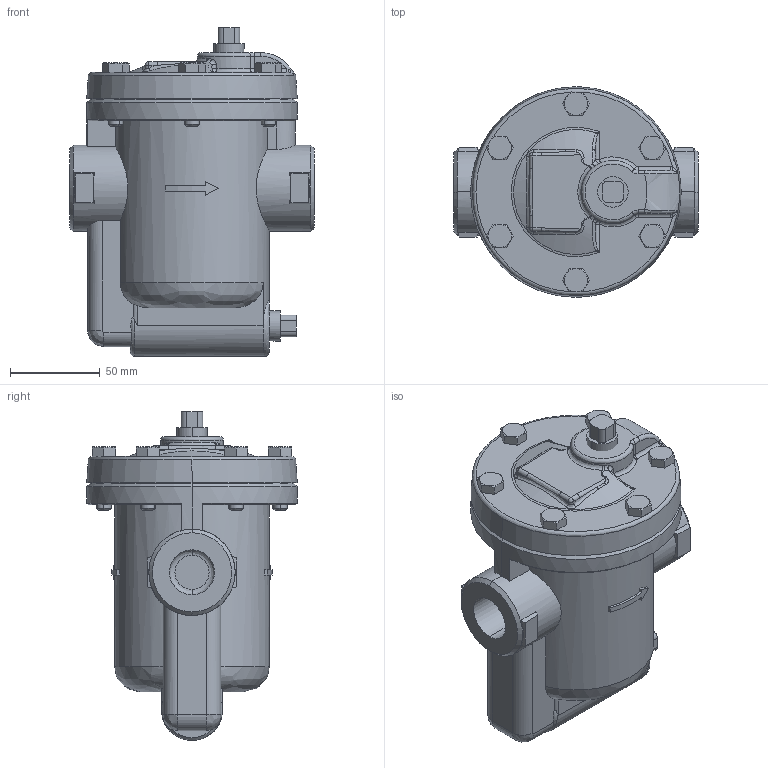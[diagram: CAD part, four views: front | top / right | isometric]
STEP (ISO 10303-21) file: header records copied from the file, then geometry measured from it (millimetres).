
FILE_DESCRIPTION( (''), '2;1');
FILE_NAME ('PC1027.940.1009-01-03 rev00 TB-20 25A_2761.stp','2025-08-01T11:58:55',(''),(''),'spGate 20.6.3 (****-****-****-****)','','');
FILE_SCHEMA (('AUTOMOTIVE_DESIGN'));
Length unit declared in the file: millimetre
Products named in the file (5): Assembly; TB-20 ふた; CP_''_JIS B 1180 呼び径六角ボルト''_17166; TB-20プラグ3_8(3D）; TB-20 25A 本体
Assembly tree (10 placements, depth 2):
  Assembly
    TB-20 ふた
    CP_''_JIS B 1180 呼び径六角ボルト''_17166  x6
    TB-20プラグ3_8(3D）  x2
    TB-20 25A 本体
Bounding box: 136 x 117 x 182.9 mm (x, y, z)
Volume: 1071852.6 mm3; surface area: 113669.4 mm2
Topology: 10 solids, 10 shells, 383 faces, 894 edges, 550 vertices
Faces by surface type: plane 147, bspline 143, cylinder 86, sphere 7
Entity records: 14859 total; most frequent: CARTESIAN_POINT 4508, ORIENTED_EDGE 1216, DIRECTION 1007, COLOUR_RGB 862, PRESENTATION_STYLE_ASSIGNMENT 862, STYLED_ITEM 862, EDGE_CURVE 608, DRAUGHTING_PRE_DEFINED_CURVE_FONT 608
